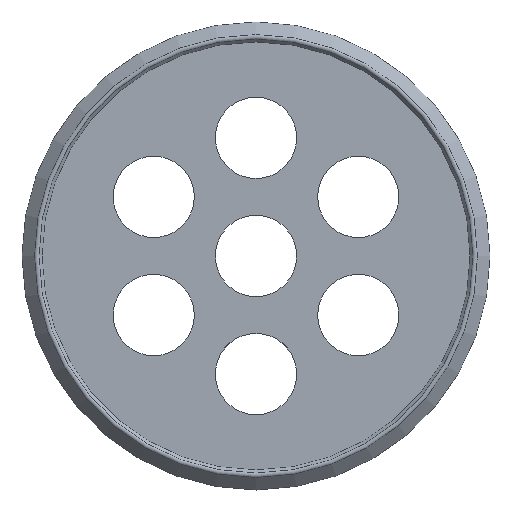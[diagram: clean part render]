
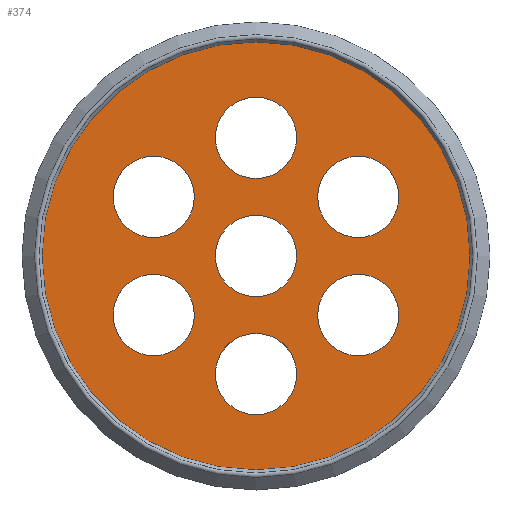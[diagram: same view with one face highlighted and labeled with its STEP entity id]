
A CAD part, top view. The second image highlights one B-rep face of the part: STEP entity #374.
In plain terms, the highlighted planar face has unit normal (0, 0, 1).
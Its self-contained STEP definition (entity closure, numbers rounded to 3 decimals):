
#32=FACE_BOUND('',#92,.T.);
#33=FACE_BOUND('',#93,.T.);
#34=FACE_BOUND('',#94,.T.);
#35=FACE_BOUND('',#95,.T.);
#36=FACE_BOUND('',#96,.T.);
#37=FACE_BOUND('',#97,.T.);
#38=FACE_BOUND('',#98,.T.);
#40=PLANE('',#440);
#62=FACE_OUTER_BOUND('',#91,.T.);
#91=EDGE_LOOP('',(#335));
#92=EDGE_LOOP('',(#336));
#93=EDGE_LOOP('',(#337));
#94=EDGE_LOOP('',(#338));
#95=EDGE_LOOP('',(#339));
#96=EDGE_LOOP('',(#340));
#97=EDGE_LOOP('',(#341));
#98=EDGE_LOOP('',(#342));
#148=CIRCLE('',#405,2.75);
#150=CIRCLE('',#409,2.75);
#152=CIRCLE('',#413,2.75);
#154=CIRCLE('',#417,2.75);
#156=CIRCLE('',#421,2.75);
#158=CIRCLE('',#425,2.75);
#160=CIRCLE('',#429,2.75);
#166=CIRCLE('',#439,14.5);
#178=VERTEX_POINT('',#597);
#180=VERTEX_POINT('',#605);
#182=VERTEX_POINT('',#613);
#184=VERTEX_POINT('',#621);
#186=VERTEX_POINT('',#629);
#188=VERTEX_POINT('',#637);
#190=VERTEX_POINT('',#645);
#195=VERTEX_POINT('',#663);
#211=EDGE_CURVE('',#178,#178,#148,.T.);
#215=EDGE_CURVE('',#180,#180,#150,.T.);
#219=EDGE_CURVE('',#182,#182,#152,.T.);
#223=EDGE_CURVE('',#184,#184,#154,.T.);
#227=EDGE_CURVE('',#186,#186,#156,.T.);
#231=EDGE_CURVE('',#188,#188,#158,.T.);
#235=EDGE_CURVE('',#190,#190,#160,.T.);
#244=EDGE_CURVE('',#195,#195,#166,.T.);
#335=ORIENTED_EDGE('',*,*,#244,.F.);
#336=ORIENTED_EDGE('',*,*,#219,.T.);
#337=ORIENTED_EDGE('',*,*,#227,.T.);
#338=ORIENTED_EDGE('',*,*,#231,.T.);
#339=ORIENTED_EDGE('',*,*,#235,.T.);
#340=ORIENTED_EDGE('',*,*,#211,.T.);
#341=ORIENTED_EDGE('',*,*,#223,.T.);
#342=ORIENTED_EDGE('',*,*,#215,.T.);
#374=ADVANCED_FACE('',(#62,#32,#33,#34,#35,#36,#37,#38),#40,.T.);
#405=AXIS2_PLACEMENT_3D('',#599,#479,#480);
#409=AXIS2_PLACEMENT_3D('',#607,#489,#490);
#413=AXIS2_PLACEMENT_3D('',#615,#499,#500);
#417=AXIS2_PLACEMENT_3D('',#623,#509,#510);
#421=AXIS2_PLACEMENT_3D('',#631,#519,#520);
#425=AXIS2_PLACEMENT_3D('',#639,#529,#530);
#429=AXIS2_PLACEMENT_3D('',#647,#539,#540);
#439=AXIS2_PLACEMENT_3D('',#665,#562,#563);
#440=AXIS2_PLACEMENT_3D('',#666,#564,#565);
#479=DIRECTION('center_axis',(0.,0.,-1.));
#480=DIRECTION('ref_axis',(0.5,0.866,0.));
#489=DIRECTION('center_axis',(0.,0.,-1.));
#490=DIRECTION('ref_axis',(1.,0.,0.));
#499=DIRECTION('center_axis',(0.,0.,-1.));
#500=DIRECTION('ref_axis',(0.5,-0.866,0.));
#509=DIRECTION('center_axis',(0.,0.,-1.));
#510=DIRECTION('ref_axis',(1.,0.,0.));
#519=DIRECTION('center_axis',(0.,0.,-1.));
#520=DIRECTION('ref_axis',(-0.5,-0.866,0.));
#529=DIRECTION('center_axis',(0.,0.,-1.));
#530=DIRECTION('ref_axis',(-1.,0.,0.));
#539=DIRECTION('center_axis',(0.,0.,-1.));
#540=DIRECTION('ref_axis',(-0.5,0.866,0.));
#562=DIRECTION('center_axis',(0.,0.,-1.));
#563=DIRECTION('ref_axis',(-1.,0.,0.));
#564=DIRECTION('center_axis',(0.,0.,1.));
#565=DIRECTION('ref_axis',(-1.,0.,0.));
#597=CARTESIAN_POINT('',(-8.303,1.618,1.55));
#599=CARTESIAN_POINT('Origin',(-6.928,4.,1.55));
#605=CARTESIAN_POINT('',(-2.75,8.,1.55));
#607=CARTESIAN_POINT('Origin',(0.,8.,1.55));
#613=CARTESIAN_POINT('',(5.553,6.382,1.55));
#615=CARTESIAN_POINT('Origin',(6.928,4.,1.55));
#621=CARTESIAN_POINT('',(-2.75,0.,1.55));
#623=CARTESIAN_POINT('Origin',(0.,0.,1.55));
#629=CARTESIAN_POINT('',(8.303,-1.618,1.55));
#631=CARTESIAN_POINT('Origin',(6.928,-4.,1.55));
#637=CARTESIAN_POINT('',(2.75,-8.,1.55));
#639=CARTESIAN_POINT('Origin',(0.,-8.,1.55));
#645=CARTESIAN_POINT('',(-5.553,-6.382,1.55));
#647=CARTESIAN_POINT('Origin',(-6.928,-4.,1.55));
#663=CARTESIAN_POINT('',(14.5,0.,1.55));
#665=CARTESIAN_POINT('Origin',(0.,0.,1.55));
#666=CARTESIAN_POINT('Origin',(0.,0.,1.55));
